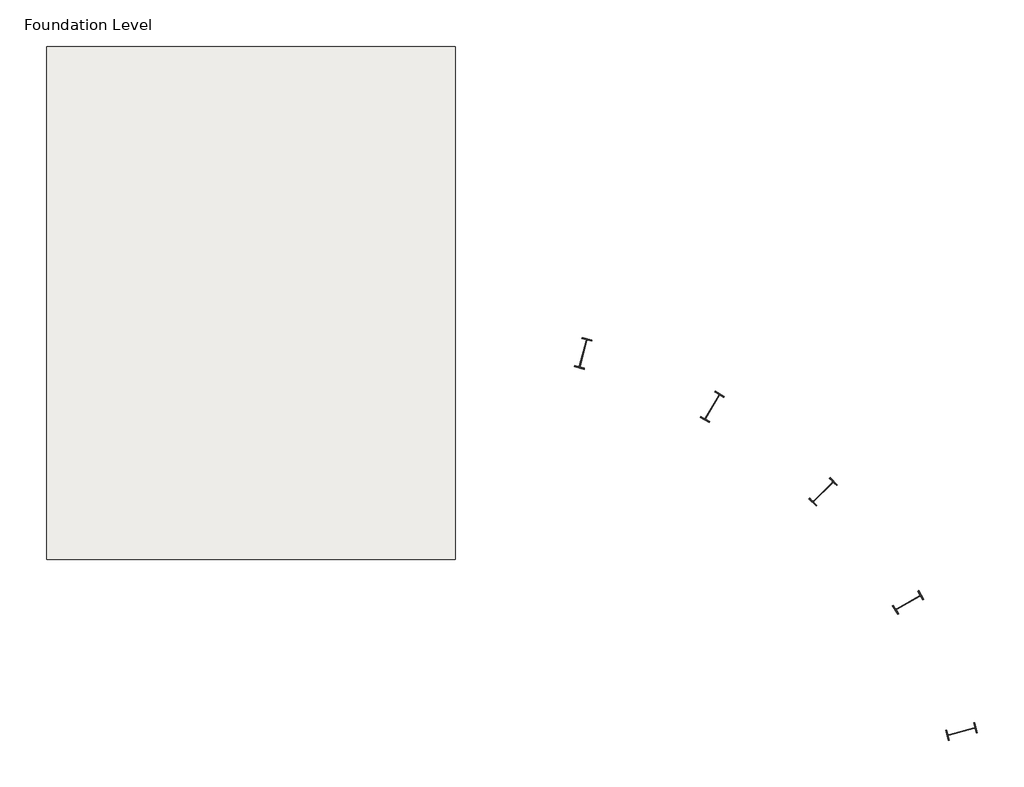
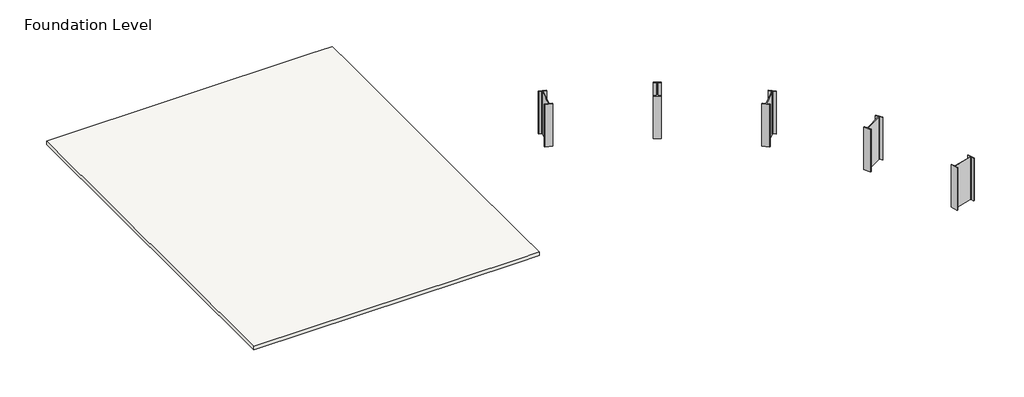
# One storey: 5 columns, 1 slab.
"""IFC4 building model written with IfcOpenShell, lengths in millimetres."""

import ifcopenshell
import ifcopenshell.guid

model = None  # the IFC model being written
_history = None  # IfcOwnerHistory: only IFC2X3 demands one
_inside = {}  # id of a spatial element -> (the spatial element, [elements in it])
_under = {}  # id of a project, library or spatial element -> (it, [spatial elements below it])
_declared = {}  # id of a project -> (the project, [libraries it declares])
_typed = {}  # id of a type object -> (the type object, [elements of that type])
_made_of = {}  # id of a material, layer set ... -> (it, [elements and type objects made of it])


def new_model(schema):
    """Start an empty IFC model of exactly this schema.

    Asked for "IFC4X3", IfcOpenShell would pick the latest addendum, in which some entities
    have other attributes; the version numbers below select the first issue.
    IFC2X3 requires an IfcOwnerHistory on every rooted entity: one is made here for all.
    """
    global model, _history
    if schema == "IFC4X3":
        model = ifcopenshell.file(schema_version=(4, 3, 0, 0))
    else:
        model = ifcopenshell.file(schema=schema)
    _inside.clear()
    _under.clear()
    _declared.clear()
    _typed.clear()
    _made_of.clear()
    _history = None
    if model.schema == "IFC2X3":
        org = make("IfcOrganization", Name="unknown")
        user = make(
            "IfcPersonAndOrganization",
            ThePerson=make("IfcPerson", FamilyName="unknown"),
            TheOrganization=org,
        )
        app = make(
            "IfcApplication",
            ApplicationDeveloper=org,
            Version="unknown",
            ApplicationFullName="unknown",
            ApplicationIdentifier="unknown",
        )
        _history = make(
            "IfcOwnerHistory",
            OwningUser=user,
            OwningApplication=app,
            ChangeAction="ADDED",
            CreationDate=0,
        )
    return model


def make(cls, **values):
    """One entity of the class cls with the attributes given. An attribute that is None is left unset."""
    return model.create_entity(
        cls, **{name: value for name, value in values.items() if value is not None}
    )


def rooted(cls, **values):
    """An entity with a GlobalId (a new one), such as an element, a storey or a relation."""
    return make(cls, GlobalId=ifcopenshell.guid.new(), OwnerHistory=_history, **values)


def si_unit(unit_type, name, prefix=None):
    """IfcSIUnit, for example si_unit("LENGTHUNIT", "METRE", prefix="MILLI")."""
    return make("IfcSIUnit", UnitType=unit_type, Prefix=prefix, Name=name)


def assignment(units):
    """IfcUnitAssignment: the units of a project."""
    return None if units is None else make("IfcUnitAssignment", Units=units)


def point(xyz):
    """IfcCartesianPoint."""
    return None if xyz is None else make("IfcCartesianPoint", Coordinates=xyz)


def direction(xyz):
    """IfcDirection."""
    return None if xyz is None else make("IfcDirection", DirectionRatios=xyz)


def frame(location, z_axis=None, x_axis=None):
    """IfcAxis2Placement3D, a coordinate frame: its origin and axes. An axis left out is left unset."""
    return make(
        "IfcAxis2Placement3D",
        Location=point(location),
        Axis=direction(z_axis),
        RefDirection=direction(x_axis),
    )


def frame_2d(location, x_axis=None):
    """IfcAxis2Placement2D, a coordinate frame in the plane: its origin and x axis."""
    return make(
        "IfcAxis2Placement2D", Location=point(location), RefDirection=direction(x_axis)
    )


def origin():
    """The frame at (0, 0, 0) with its axes left unset."""
    return frame((0.0, 0.0, 0.0))


def place(relative_to, where):
    """IfcLocalPlacement: puts the frame where relative to a parent placement (None: the world)."""
    return make(
        "IfcLocalPlacement", PlacementRelTo=relative_to, RelativePlacement=where
    )


def context(
    kind, dimensions, precision=None, world=None, true_north=None, identifier=None
):
    """IfcGeometricRepresentationContext, for example the 3D "Model" context."""
    return make(
        "IfcGeometricRepresentationContext",
        ContextIdentifier=identifier,
        ContextType=kind,
        CoordinateSpaceDimension=dimensions,
        Precision=precision,
        WorldCoordinateSystem=world,
        TrueNorth=true_north,
    )


def project(units=None, contexts=None):
    """IfcProject with its units and contexts."""
    return rooted(
        "IfcProject",
        Name="project",
        RepresentationContexts=contexts,
        UnitsInContext=assignment(units),
    )


def spatial(cls, under=None, at=None, **own):
    """A site, building, storey or space (cls), placed at a placement, below another one or the project."""
    s = rooted(cls, ObjectPlacement=at, **own)
    if under is not None:
        _under.setdefault(under.id(), (under, []))[1].append(s)
    return s


def polyline(points):
    """IfcPolyline through the points."""
    return make("IfcPolyline", Points=[point(p) for p in points])


def circle_curve(where, radius):
    """IfcCircle in the frame where."""
    return make("IfcCircle", Position=where, Radius=radius)


def trimmed(basis, trim1, trim2, sense, master):
    """IfcTrimmedCurve: the piece of a basis curve between two trims."""
    return make(
        "IfcTrimmedCurve",
        BasisCurve=basis,
        Trim1=trim1,
        Trim2=trim2,
        SenseAgreement=sense,
        MasterRepresentation=master,
    )


def segment(curve, same_sense, transition):
    """IfcCompositeCurveSegment."""
    return make(
        "IfcCompositeCurveSegment",
        Transition=transition,
        SameSense=same_sense,
        ParentCurve=curve,
    )


def composite_curve(segments, self_intersect=None):
    """IfcCompositeCurve: segments joined end to end."""
    return make("IfcCompositeCurve", Segments=segments, SelfIntersect=self_intersect)


def outline(outer, holes=None, kind="AREA"):
    """IfcArbitraryClosedProfileDef: a profile drawn as a closed curve; with holes, ...WithVoids."""
    if holes is None:
        return make("IfcArbitraryClosedProfileDef", ProfileType=kind, OuterCurve=outer)
    return make(
        "IfcArbitraryProfileDefWithVoids",
        ProfileType=kind,
        OuterCurve=outer,
        InnerCurves=holes,
    )


def extrude(swept, where, along, depth):
    """IfcExtrudedAreaSolid: the profile swept, set in the frame where, extruded along a direction by depth."""
    return make(
        "IfcExtrudedAreaSolid",
        SweptArea=swept,
        Position=where,
        ExtrudedDirection=direction(along),
        Depth=depth,
    )


def faces_of(points, faces, orient=None, outer=None):
    """IfcFace entities. A face is a list of loops; a loop is a list of indices into points, from 0.

    orient and outer hold one flag for each loop. By default every Orientation is true, the
    first loop of a face is its IfcFaceOuterBound and the others are IfcFaceBound.
    """
    made = []
    for i, loops in enumerate(faces):
        bounds = []
        for j, loop in enumerate(loops):
            is_outer = j == 0 if outer is None else outer[i][j]
            bounds.append(
                make(
                    "IfcFaceOuterBound" if is_outer else "IfcFaceBound",
                    Bound=make("IfcPolyLoop", Polygon=[points[k] for k in loop]),
                    Orientation=True if orient is None else orient[i][j],
                )
            )
        made.append(make("IfcFace", Bounds=bounds))
    return made


def faceted_brep(points, faces, orient=None, outer=None, voids=None):
    """IfcFacetedBrep: a solid bounded by flat faces; with voids (closed shells), ...WithVoids."""
    shared = [point(p) for p in points]
    hull = make("IfcClosedShell", CfsFaces=faces_of(shared, faces, orient, outer))
    if voids is None:
        return make("IfcFacetedBrep", Outer=hull)
    return make(
        "IfcFacetedBrepWithVoids",
        Outer=hull,
        Voids=[
            make(cls, CfsFaces=faces_of(shared, fs, o, b)) for cls, fs, o, b in voids
        ],
    )


def shape(context_of_items, identifier, shape_type, items):
    """IfcShapeRepresentation: the items that make up one representation, for example the "Body"."""
    return make(
        "IfcShapeRepresentation",
        ContextOfItems=context_of_items,
        RepresentationIdentifier=identifier,
        RepresentationType=shape_type,
        Items=items,
    )


def source(mapping_origin, context_of_items, identifier, shape_type, items):
    """IfcRepresentationMap: a shape defined once, which mapped items show again and again."""
    return make(
        "IfcRepresentationMap",
        MappingOrigin=mapping_origin,
        MappedRepresentation=shape(context_of_items, identifier, shape_type, items),
    )


def transform(
    local_origin,
    x_axis=None,
    y_axis=None,
    z_axis=None,
    scale=None,
    scale2=None,
    scale3=None,
    uniform=True,
):
    """IfcCartesianTransformationOperator3D, or its non-uniform kind. x_axis, y_axis, z_axis: its Axis1, 2, 3."""
    if uniform:
        return make(
            "IfcCartesianTransformationOperator3D",
            Axis1=direction(x_axis),
            Axis2=direction(y_axis),
            LocalOrigin=point(local_origin),
            Scale=scale,
            Axis3=direction(z_axis),
        )
    return make(
        "IfcCartesianTransformationOperator3DnonUniform",
        Axis1=direction(x_axis),
        Axis2=direction(y_axis),
        LocalOrigin=point(local_origin),
        Scale=scale,
        Axis3=direction(z_axis),
        Scale2=scale2,
        Scale3=scale3,
    )


def mapped(mapping_source, mapping_target):
    """IfcMappedItem: shows the shape of a source again, moved by a transform."""
    return make(
        "IfcMappedItem", MappingSource=mapping_source, MappingTarget=mapping_target
    )


def made_of(thing, what):
    """Note that an element or type object is made of a material, layer set ...; save() writes the relation."""
    if what is not None:
        _made_of.setdefault(what.id(), (what, []))[1].append(thing)
    return thing


def element(
    cls,
    number,
    at=None,
    inside=None,
    cuts=None,
    type_object=None,
    material=None,
    context=None,
    identifier="Body",
    shape_type=None,
    held_by="IfcProductDefinitionShape",
    body=None,
    shapes=None,
    **own,
):
    """One element of the class cls, such as IfcWall. Its Tag is "e" and its number.

    at: its placement. inside: the storey or other place that contains it. cuts: it is an
    opening in that element (IfcRelVoidsElement). A single representation is given by context,
    identifier, shape_type and body (its items); several are given by shapes. held_by: the class
    of the entity that holds the representations. save() writes the other relations.
    """
    e = rooted(cls, Tag="e%d" % number, ObjectPlacement=at, **own)
    if body is not None:
        shapes = [shape(context, identifier, shape_type, body)]
    if shapes is not None:
        e.Representation = make(held_by, Representations=shapes)
    if inside is not None:
        _inside.setdefault(inside.id(), (inside, []))[1].append(e)
    if cuts is not None:
        rooted(
            "IfcRelVoidsElement", RelatingBuildingElement=cuts, RelatedOpeningElement=e
        )
    if type_object is not None:
        _typed.setdefault(type_object.id(), (type_object, []))[1].append(e)
    return made_of(e, material)


def aggregate(whole, parts):
    """IfcRelAggregates: a whole, such as a stair, and the parts it consists of."""
    return rooted("IfcRelAggregates", RelatingObject=whole, RelatedObjects=parts)


def save(model, path):
    """Write the relations noted so far, then the file.

    IfcRelAggregates (storeys below a building ...), IfcRelContainedInSpatialStructure (elements
    in a storey), IfcRelDefinesByType, IfcRelAssociatesMaterial and IfcRelDeclares: one each for
    every whole, place, type object, material and project.
    """
    for whole, parts in _under.values():
        aggregate(whole, parts)
    for where, things in _inside.values():
        rooted(
            "IfcRelContainedInSpatialStructure",
            RelatedElements=things,
            RelatingStructure=where,
        )
    for kind, things in _typed.values():
        rooted("IfcRelDefinesByType", RelatedObjects=things, RelatingType=kind)
    for what, things in _made_of.values():
        rooted("IfcRelAssociatesMaterial", RelatedObjects=things, RelatingMaterial=what)
    for by, libraries in _declared.values():
        rooted("IfcRelDeclares", RelatingContext=by, RelatedDefinitions=libraries)
    model.write(path)


def w840x251_0592dfe8(model_context):
    return source(origin(), model_context, "Body", "SweptSolid", [
        extrude(outline(composite_curve([segment(polyline([(146.0, 429.5), (146.0, 398.5), (31.5, 398.5)]), True, "CONTINUOUS"), segment(trimmed(circle_curve(frame_2d((31.5, 375.5)), 23.0), [point((31.5, 398.5))], [point((8.5, 375.5))], True, "CARTESIAN"), True, "CONTINUOUS"), segment(polyline([(8.5, 375.5), (8.5, -375.5)]), True, "CONTINUOUS"), segment(trimmed(circle_curve(frame_2d((31.5, -375.5)), 23.0), [point((8.5, -375.5))], [point((31.5, -398.5))], True, "CARTESIAN"), True, "CONTINUOUS"), segment(polyline([(31.5, -398.5), (146.0, -398.5), (146.0, -429.5), (-146.0, -429.5), (-146.0, -398.5), (-31.5, -398.5)]), True, "CONTINUOUS"), segment(trimmed(circle_curve(frame_2d((-31.5, -375.5)), 23.0), [point((-31.5, -398.5))], [point((-8.5, -375.5))], True, "CARTESIAN"), True, "CONTINUOUS"), segment(polyline([(-8.5, -375.5), (-8.5, 375.5)]), True, "CONTINUOUS"), segment(trimmed(circle_curve(frame_2d((-31.5, 375.5)), 23.0), [point((-8.5, 375.5))], [point((-31.5, 398.5))], True, "CARTESIAN"), True, "CONTINUOUS"), segment(polyline([(-31.5, 398.5), (-146.0, 398.5), (-146.0, 429.5), (146.0, 429.5)]), True, "CONTINUOUS")], self_intersect=False)), frame((0.0, 0.0, -1829.0), z_axis=(0.0, 0.0, 1.0), x_axis=(1.0, 0.0, 0.0)), (0.0, 0.0, 1.0), 1829.0),
    ])


model = new_model("IFC4")

# Units and contexts
model_context = context("Model", 3, world=origin())
ifc_project = project(units=[si_unit("LENGTHUNIT", "METRE", prefix="MILLI")], contexts=[model_context])

# Site, building, storey
site = spatial("IfcSite", under=ifc_project)
building = spatial("IfcBuilding", under=site)
storey = spatial("IfcBuildingStorey", under=building, Name="Foundation Level", Elevation=-1829.0)

# Columns
placement = place(None, origin())
w840x251_shape = w840x251_0592dfe8(model_context)
element("IfcColumn", 1, ObjectType="M_W-Wide Flange-Column : W840X251", at=placement, inside=storey, context=model_context, shape_type="MappedRepresentation", body=[
    mapped(w840x251_shape, transform((4211.8060608, -14958.4341491, 0.0), x_axis=(-0.25881904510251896, 0.9659258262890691, 0.0), y_axis=(-0.9659258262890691, -0.25881904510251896, 0.0), z_axis=(0.0, 0.0, 1.0))),
])
element("IfcColumn", 2, ObjectType="M_W-Wide Flange-Column : W840X251", at=placement, inside=storey, context=model_context, shape_type="MappedRepresentation", body=[
    mapped(w840x251_shape, transform((2689.3236218, -11282.8363965, 0.0), x_axis=(-0.4999999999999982, 0.8660254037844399, 0.0), y_axis=(-0.8660254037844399, -0.4999999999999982, 0.0), z_axis=(0.0, 0.0, 1.0))),
])
element("IfcColumn", 3, ObjectType="M_W-Wide Flange-Column : W840X251", at=placement, inside=storey, context=model_context, shape_type="MappedRepresentation", body=[
    mapped(w840x251_shape, transform((267.4038134, -8126.5290512, 0.0), x_axis=(0.7071067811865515, -0.7071067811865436, 0.0), y_axis=(0.7071067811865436, 0.7071067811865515, 0.0), z_axis=(0.0, 0.0, 1.0))),
])
element("IfcColumn", 4, ObjectType="M_W-Wide Flange-Column : W840X251", at=placement, inside=storey, context=model_context, shape_type="MappedRepresentation", body=[
    mapped(w840x251_shape, transform((-2888.9035319, -5704.6092428, 0.0), x_axis=(0.8660254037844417, -0.49999999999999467, 0.0), y_axis=(0.49999999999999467, 0.8660254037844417, 0.0), z_axis=(0.0, 0.0, 1.0))),
])
element("IfcColumn", 5, ObjectType="M_W-Wide Flange-Column : W840X251", at=placement, inside=storey, context=model_context, shape_type="MappedRepresentation", body=[
    mapped(w840x251_shape, transform((-6564.5012845, -4182.1268039, 0.0), x_axis=(0.9659258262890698, -0.25881904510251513, 0.0), y_axis=(0.25881904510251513, 0.9659258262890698, 0.0), z_axis=(0.0, 0.0, 1.0))),
])

# Slab
element("IfcSlab", 6, ObjectType="150mm Foundation Slab", at=placement, inside=storey, context=model_context, shape_type="Brep", body=[
    faceted_brep([(-10208.9035319, 4562.1636035, -1979.0), (-10208.9035319, 3362.1636035, -1979.0), (-10208.9035319, -2762.8363965, -1979.0), (-10208.9035319, -4562.8363965, -1979.0), (-10208.9035319, -8858.8363965, -1979.0), (-10208.9035319, -10058.8363965, -1979.0), (-11108.9035319, -10058.8363965, -1979.0), (-21844.300634, -10058.8363965, -1979.0), (-21844.300634, 4562.1636035, -1979.0), (-11108.9035319, 4562.1636035, -1979.0), (-10208.9035319, 4562.1636035, -1829.0), (-11108.9035319, 4562.1636035, -1829.0), (-21844.300634, 4562.1636035, -1829.0), (-21844.300634, -10058.8363965, -1829.0), (-11108.9035319, -10058.8363965, -1829.0), (-10208.9035319, -10058.8363965, -1829.0), (-10208.9035319, -8858.8363965, -1829.0), (-10208.9035319, -4562.8363965, -1829.0), (-10208.9035319, -2762.8363965, -1829.0), (-10208.9035319, 3362.1636035, -1829.0)], [[[0, 1, 2, 3, 4, 5, 6, 7, 8, 9]], [[10, 11, 12, 13, 14, 15, 16, 17, 18, 19]], [[5, 4, 3, 2, 1, 0, 10, 19, 18, 17, 16, 15]], [[7, 6, 5, 15, 14, 13]], [[8, 7, 13, 12]], [[0, 9, 8, 12, 11, 10]]]),
])

save(model, "model.ifc")
